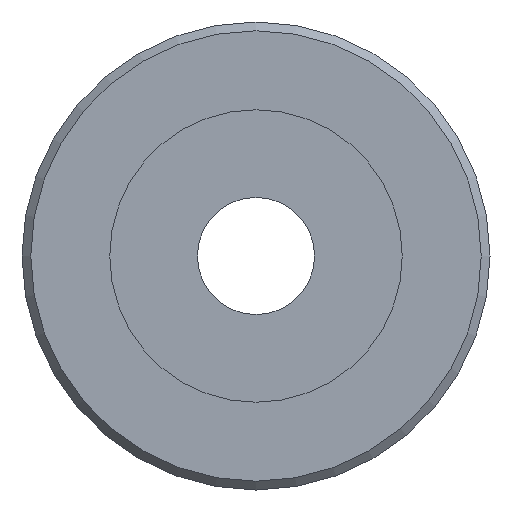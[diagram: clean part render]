
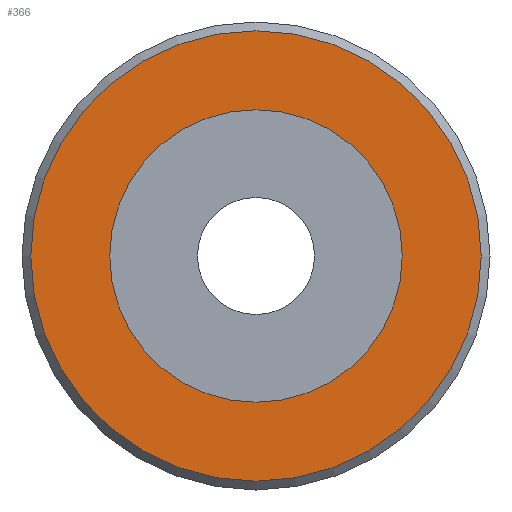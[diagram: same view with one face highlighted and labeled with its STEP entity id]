
A CAD part, front view. The second image highlights one B-rep face of the part: STEP entity #366.
In plain terms, the highlighted planar face has unit normal (0, -1, 0).
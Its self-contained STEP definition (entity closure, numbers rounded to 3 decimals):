
#22=FACE_BOUND('',#69,.T.);
#30=PLANE('',#422);
#41=FACE_OUTER_BOUND('',#68,.T.);
#68=EDGE_LOOP('',(#263));
#69=EDGE_LOOP('',(#264));
#129=CIRCLE('',#412,5.);
#135=CIRCLE('',#421,7.7);
#164=VERTEX_POINT('',#614);
#170=VERTEX_POINT('',#631);
#197=EDGE_CURVE('',#164,#164,#129,.T.);
#206=EDGE_CURVE('',#170,#170,#135,.T.);
#263=ORIENTED_EDGE('',*,*,#206,.F.);
#264=ORIENTED_EDGE('',*,*,#197,.T.);
#366=ADVANCED_FACE('',(#41,#22),#30,.T.);
#412=AXIS2_PLACEMENT_3D('',#615,#476,#477);
#421=AXIS2_PLACEMENT_3D('',#633,#497,#498);
#422=AXIS2_PLACEMENT_3D('',#634,#499,#500);
#476=DIRECTION('center_axis',(0.,1.,0.));
#477=DIRECTION('ref_axis',(1.,0.,0.));
#497=DIRECTION('center_axis',(0.,1.,0.));
#498=DIRECTION('ref_axis',(1.,0.,0.));
#499=DIRECTION('center_axis',(0.,-1.,0.));
#500=DIRECTION('ref_axis',(0.,0.,-1.));
#614=CARTESIAN_POINT('',(-5.,-19.1,0.));
#615=CARTESIAN_POINT('Origin',(0.,-19.1,0.));
#631=CARTESIAN_POINT('',(-7.7,-19.1,0.));
#633=CARTESIAN_POINT('Origin',(0.,-19.1,0.));
#634=CARTESIAN_POINT('Origin',(-8.,-19.1,0.));
